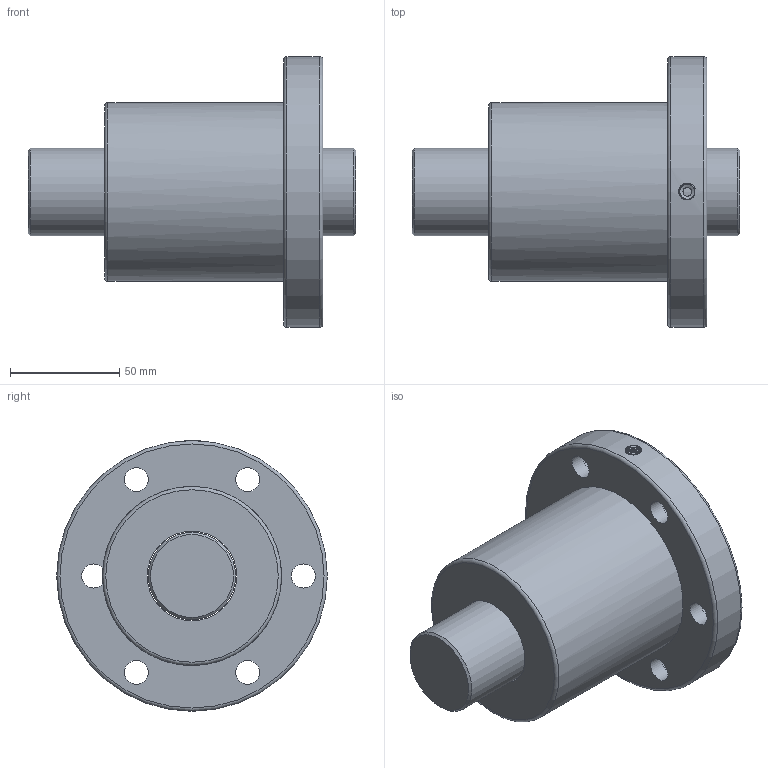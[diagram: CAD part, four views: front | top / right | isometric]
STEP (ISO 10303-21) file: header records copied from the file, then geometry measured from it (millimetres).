
FILE_DESCRIPTION(/* description */ ('Unknown','CAx-IF Rec.Pracs.---Representation and Presentation of Product Manufacturing Information (PMI)---4.0---2014-10-13','CAx-IF Rec.Pracs.---3D Tessellated Geometry---0.4---2014-09-14','2;1'),/* implementation_level */ '2;1');
FILE_NAME(/* name */ 'SFV04010-4.8',/* time_stamp */ '2020-12-08T11:00:58+08:00',/* author */ ('Unknown'),/* organization */ ('Unknown'),/* preprocessor_version */ 'ST-DEVELOPER v16.7',/* originating_system */ 'Solid Edge',/* authorisation */ 'Unknown');
FILE_SCHEMA (('AP242_MANAGED_MODEL_BASED_3D_ENGINEERING_MIM_LF { 1 0 10303 442 1 1 4 }'));
Length unit declared in the file: millimetre
Products named in the file (1): SFV04010-4.8
Bounding box: 150 x 124 x 124 mm (x, y, z)
Volume: 685536.4 mm3; surface area: 87711.6 mm2
Topology: 2 solids, 2 shells, 41 faces, 86 edges, 55 vertices
Faces by surface type: cylinder 20, plane 12, cone 4, torus 3, bspline 2
Full cylindrical faces by diameter (mm): 4 x1, 6.917 x1, 11 x6, 17.5 x6, 40 x1, 41 x1, 82 x1, 124 x1
Entity records: 3264 total; most frequent: CARTESIAN_POINT 2398, DIRECTION 174, ORIENTED_EDGE 114, EDGE_LOOP 87, FACE_BOUND 87, AXIS2_PLACEMENT_3D 87, EDGE_CURVE 57, VERTEX_POINT 50
